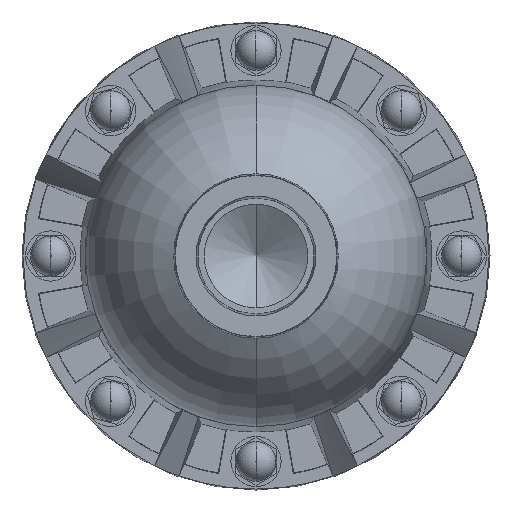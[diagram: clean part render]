
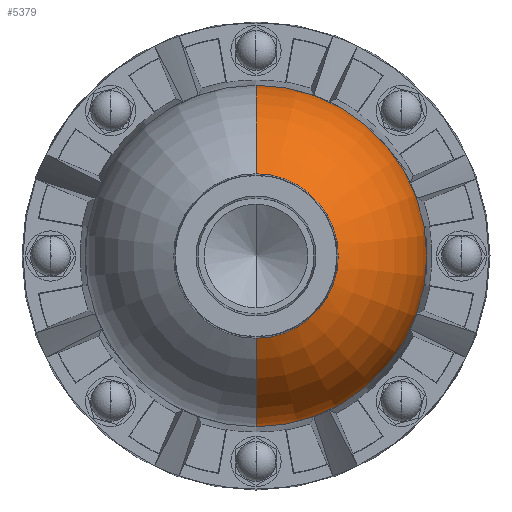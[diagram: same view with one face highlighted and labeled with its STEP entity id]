
A CAD part, front view. The second image highlights one B-rep face of the part: STEP entity #5379.
In plain terms, the highlighted toroidal (fillet/blend) face has major radius 0.91 mm and minor radius 37.084 mm.
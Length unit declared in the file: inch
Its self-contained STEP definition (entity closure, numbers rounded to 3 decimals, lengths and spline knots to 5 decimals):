
#572 = DIRECTION ( 'NONE',  ( 0., 0., 1. ) ) ;
#657 = CARTESIAN_POINT ( 'NONE',  ( 0., -4.37946, 0.7206 ) ) ;
#666 = DIRECTION ( 'NONE',  ( 0., 1., 0. ) ) ;
#1180 = ORIENTED_EDGE ( 'NONE', *, *, #2691, .F. ) ;
#1235 = DIRECTION ( 'NONE',  ( 1., 0., 0. ) ) ;
#2691 = EDGE_CURVE ( 'NONE', #14190, #14216, #11285, .T. ) ;
#2781 = DIRECTION ( 'NONE',  ( -1., 0., 0. ) ) ;
#3168 = TOROIDAL_SURFACE ( 'NONE', #9507, 0.03584, 1.46 ) ;
#3324 = EDGE_LOOP ( 'NONE', ( #4430, #11514, #13307, #1180 ) ) ;
#3350 = AXIS2_PLACEMENT_3D ( 'NONE', #5447, #13338, #6569 ) ;
#4064 = EDGE_CURVE ( 'NONE', #14216, #7834, #9288, .T. ) ;
#4243 = EDGE_CURVE ( 'NONE', #14370, #7834, #11593, .T. ) ;
#4430 = ORIENTED_EDGE ( 'NONE', *, *, #5331, .F. ) ;
#5137 = CARTESIAN_POINT ( 'NONE',  ( 0., -3.09, 0. ) ) ;
#5331 = EDGE_CURVE ( 'NONE', #14370, #14190, #9871, .T. ) ;
#5379 = ADVANCED_FACE ( 'NONE', ( #8808 ), #3168, .T. ) ;
#5447 = CARTESIAN_POINT ( 'NONE',  ( 0., -3.11548, 0. ) ) ;
#5734 = AXIS2_PLACEMENT_3D ( 'NONE', #14123, #7344, #572 ) ;
#6569 = DIRECTION ( 'NONE',  ( 0., 0., 1. ) ) ;
#7344 = DIRECTION ( 'NONE',  ( 0., -1., 0. ) ) ;
#7481 = CARTESIAN_POINT ( 'NONE',  ( 0., -3.11548, 1.49562 ) ) ;
#7834 = VERTEX_POINT ( 'NONE', #10431 ) ;
#7997 = CARTESIAN_POINT ( 'NONE',  ( 0., -3.09, -0.03584 ) ) ;
#8557 = DIRECTION ( 'NONE',  ( 0., 0., 1. ) ) ;
#8808 = FACE_OUTER_BOUND ( 'NONE', #3324, .T. ) ;
#9126 = DIRECTION ( 'NONE',  ( 0., 0., -1. ) ) ;
#9288 = CIRCLE ( 'NONE', #3350, 1.49562 ) ;
#9507 = AXIS2_PLACEMENT_3D ( 'NONE', #5137, #666, #8557 ) ;
#9546 = CARTESIAN_POINT ( 'NONE',  ( 0., -3.09, 0.03584 ) ) ;
#9871 = CIRCLE ( 'NONE', #5734, 0.7206 ) ;
#10044 = CARTESIAN_POINT ( 'NONE',  ( 0., -4.37946, -0.7206 ) ) ;
#10342 = AXIS2_PLACEMENT_3D ( 'NONE', #9546, #2781, #10682 ) ;
#10431 = CARTESIAN_POINT ( 'NONE',  ( 0., -3.11548, -1.49562 ) ) ;
#10682 = DIRECTION ( 'NONE',  ( 0., 0., 1. ) ) ;
#11285 = CIRCLE ( 'NONE', #10342, 1.46 ) ;
#11514 = ORIENTED_EDGE ( 'NONE', *, *, #4243, .T. ) ;
#11593 = CIRCLE ( 'NONE', #13973, 1.46 ) ;
#13307 = ORIENTED_EDGE ( 'NONE', *, *, #4064, .F. ) ;
#13338 = DIRECTION ( 'NONE',  ( 0., 1., 0. ) ) ;
#13973 = AXIS2_PLACEMENT_3D ( 'NONE', #7997, #1235, #9126 ) ;
#14123 = CARTESIAN_POINT ( 'NONE',  ( 0., -4.37946, 0. ) ) ;
#14190 = VERTEX_POINT ( 'NONE', #657 ) ;
#14216 = VERTEX_POINT ( 'NONE', #7481 ) ;
#14370 = VERTEX_POINT ( 'NONE', #10044 ) ;
